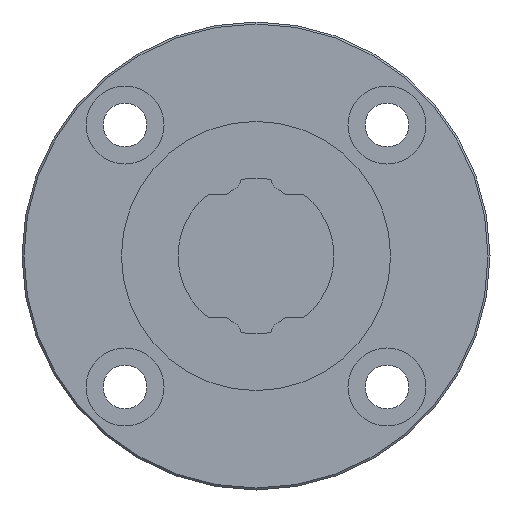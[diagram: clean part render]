
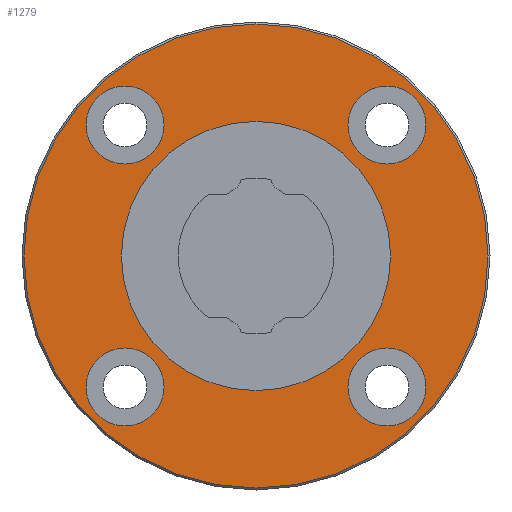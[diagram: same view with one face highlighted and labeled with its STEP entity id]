
A CAD part, left-side view. The second image highlights one B-rep face of the part: STEP entity #1279.
In plain terms, the highlighted planar face has unit normal (-1, 0, 0).
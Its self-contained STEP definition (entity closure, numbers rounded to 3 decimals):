
#48=PLANE('',#1433);
#395=ORIENTED_EDGE('',*,*,#674,.F.);
#396=ORIENTED_EDGE('',*,*,#675,.T.);
#397=ORIENTED_EDGE('',*,*,#676,.T.);
#398=ORIENTED_EDGE('',*,*,#677,.T.);
#399=ORIENTED_EDGE('',*,*,#678,.T.);
#400=ORIENTED_EDGE('',*,*,#673,.T.);
#673=EDGE_CURVE('',#825,#825,#929,.T.);
#674=EDGE_CURVE('',#826,#826,#930,.T.);
#675=EDGE_CURVE('',#827,#827,#931,.T.);
#676=EDGE_CURVE('',#828,#828,#932,.T.);
#677=EDGE_CURVE('',#829,#829,#933,.T.);
#678=EDGE_CURVE('',#830,#830,#934,.T.);
#825=VERTEX_POINT('',#2150);
#826=VERTEX_POINT('',#2153);
#827=VERTEX_POINT('',#2155);
#828=VERTEX_POINT('',#2157);
#829=VERTEX_POINT('',#2159);
#830=VERTEX_POINT('',#2161);
#929=CIRCLE('',#1432,13.8);
#930=CIRCLE('',#1434,23.8);
#931=CIRCLE('',#1435,4.);
#932=CIRCLE('',#1436,4.);
#933=CIRCLE('',#1437,4.);
#934=CIRCLE('',#1438,4.);
#1002=EDGE_LOOP('',(#395));
#1003=EDGE_LOOP('',(#396));
#1004=EDGE_LOOP('',(#397));
#1005=EDGE_LOOP('',(#398));
#1006=EDGE_LOOP('',(#399));
#1007=EDGE_LOOP('',(#400));
#1118=FACE_BOUND('',#1002,.T.);
#1119=FACE_BOUND('',#1003,.T.);
#1120=FACE_BOUND('',#1004,.T.);
#1121=FACE_BOUND('',#1005,.T.);
#1122=FACE_BOUND('',#1006,.T.);
#1123=FACE_BOUND('',#1007,.T.);
#1279=ADVANCED_FACE('',(#1118,#1119,#1120,#1121,#1122,#1123),#48,.F.);
#1432=AXIS2_PLACEMENT_3D('',#2149,#1731,#1732);
#1433=AXIS2_PLACEMENT_3D('',#2151,#1733,#1734);
#1434=AXIS2_PLACEMENT_3D('',#2152,#1735,#1736);
#1435=AXIS2_PLACEMENT_3D('',#2154,#1737,#1738);
#1436=AXIS2_PLACEMENT_3D('',#2156,#1739,#1740);
#1437=AXIS2_PLACEMENT_3D('',#2158,#1741,#1742);
#1438=AXIS2_PLACEMENT_3D('',#2160,#1743,#1744);
#1731=DIRECTION('',(1.,0.,0.));
#1732=DIRECTION('',(0.,0.,-1.));
#1733=DIRECTION('',(1.,0.,0.));
#1734=DIRECTION('',(0.,0.,-1.));
#1735=DIRECTION('',(1.,0.,0.));
#1736=DIRECTION('',(0.,0.,-1.));
#1737=DIRECTION('',(1.,0.,0.));
#1738=DIRECTION('',(0.,0.,-1.));
#1739=DIRECTION('',(1.,0.,0.));
#1740=DIRECTION('',(0.,0.,-1.));
#1741=DIRECTION('',(1.,0.,0.));
#1742=DIRECTION('',(0.,0.,-1.));
#1743=DIRECTION('',(1.,0.,0.));
#1744=DIRECTION('',(0.,0.,-1.));
#2149=CARTESIAN_POINT('',(-17.7,0.,0.));
#2150=CARTESIAN_POINT('',(-17.7,0.,-13.8));
#2151=CARTESIAN_POINT('',(-17.7,13.8,0.));
#2152=CARTESIAN_POINT('',(-17.7,0.,0.));
#2153=CARTESIAN_POINT('',(-17.7,0.,-23.8));
#2154=CARTESIAN_POINT('',(-17.7,-13.435,13.435));
#2155=CARTESIAN_POINT('',(-17.7,-13.435,9.435));
#2156=CARTESIAN_POINT('',(-17.7,-13.435,-13.435));
#2157=CARTESIAN_POINT('',(-17.7,-13.435,-17.435));
#2158=CARTESIAN_POINT('',(-17.7,13.435,-13.435));
#2159=CARTESIAN_POINT('',(-17.7,13.435,-17.435));
#2160=CARTESIAN_POINT('',(-17.7,13.435,13.435));
#2161=CARTESIAN_POINT('',(-17.7,13.435,9.435));
